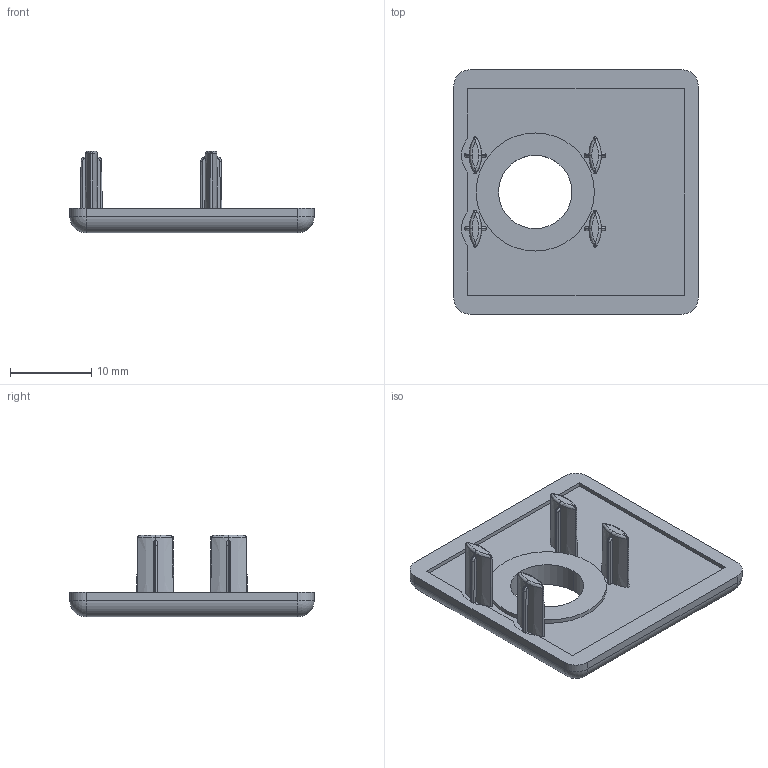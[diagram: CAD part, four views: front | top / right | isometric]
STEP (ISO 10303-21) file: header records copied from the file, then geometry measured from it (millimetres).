
FILE_DESCRIPTION(('STEP AP214'),'1');
FILE_NAME('fath_091337.stp','2017-11-16T12:57:46',('TraceParts'),('TraceParts S.A.'),'Spatial InterOp 3D',' ',' ');
FILE_SCHEMA(('automotive_design'));
Length unit declared in the file: millimetre
Products named in the file (1): fath_091337
Bounding box: 30 x 30 x 10 mm (x, y, z)
Volume: 2300.3 mm3; surface area: 2408.5 mm2
Topology: 1 solids, 1 shells, 174 faces, 434 edges, 256 vertices
Faces by surface type: cylinder 56, plane 50, torus 32, cone 24, bspline 8, sphere 4
Entity records: 9311 total; most frequent: CARTESIAN_POINT 3873, DIRECTION 860, ORIENTED_EDGE 844, EDGE_CURVE 422, AXIS2_PLACEMENT_3D 343, VERTEX_POINT 256, EDGE_LOOP 182, CIRCLE 176
